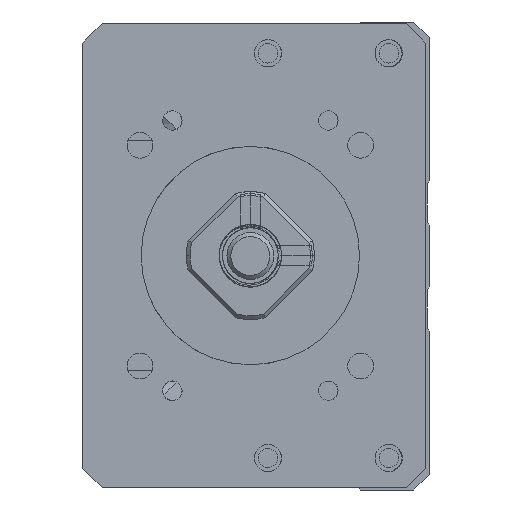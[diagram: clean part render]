
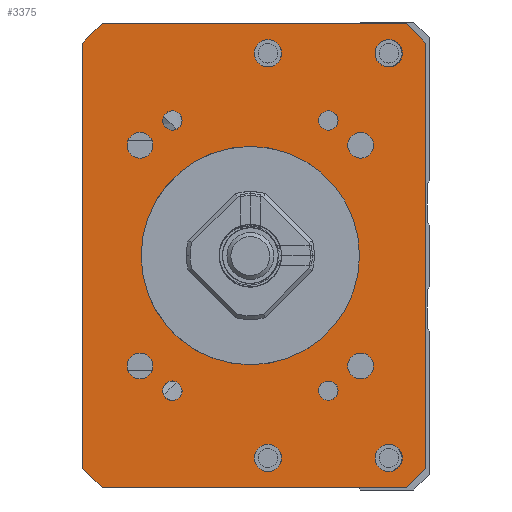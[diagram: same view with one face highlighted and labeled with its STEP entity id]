
A CAD part, left-side view. The second image highlights one B-rep face of the part: STEP entity #3375.
In plain terms, the highlighted planar face has unit normal (-1, 0, 0).
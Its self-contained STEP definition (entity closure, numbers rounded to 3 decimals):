
#226=CIRCLE('',#11425,14.);
#235=CIRCLE('',#11436,1.65);
#236=CIRCLE('',#11437,1.65);
#237=CIRCLE('',#11438,1.65);
#238=CIRCLE('',#11439,1.65);
#239=CIRCLE('',#11440,1.25);
#240=CIRCLE('',#11441,1.75);
#241=CIRCLE('',#11442,1.25);
#242=CIRCLE('',#11443,1.75);
#243=CIRCLE('',#11444,1.25);
#244=CIRCLE('',#11445,1.75);
#245=CIRCLE('',#11446,1.75);
#246=CIRCLE('',#11447,1.25);
#784=PLANE('',#11448);
#1678=LINE('',#15954,#2530);
#1680=LINE('',#15978,#2532);
#1681=LINE('',#15980,#2533);
#1682=LINE('',#15982,#2534);
#1683=LINE('',#15984,#2535);
#1684=LINE('',#15986,#2536);
#1685=LINE('',#15988,#2537);
#1686=LINE('',#15990,#2538);
#2530=VECTOR('',#12732,1.);
#2532=VECTOR('',#12756,1.);
#2533=VECTOR('',#12757,1.);
#2534=VECTOR('',#12758,1.);
#2535=VECTOR('',#12759,1.);
#2536=VECTOR('',#12760,1.);
#2537=VECTOR('',#12761,1.);
#2538=VECTOR('',#12762,1.);
#3375=ADVANCED_FACE('',(#4272,#4273,#4274,#4275,#4276,#4277,#4278,#4279,
#4280,#4281,#4282,#4283,#4284,#4285),#784,.F.);
#4272=FACE_BOUND('',#4817,.T.);
#4273=FACE_BOUND('',#4818,.T.);
#4274=FACE_BOUND('',#4819,.T.);
#4275=FACE_BOUND('',#4820,.T.);
#4276=FACE_BOUND('',#4821,.T.);
#4277=FACE_BOUND('',#4822,.T.);
#4278=FACE_BOUND('',#4823,.T.);
#4279=FACE_BOUND('',#4824,.T.);
#4280=FACE_BOUND('',#4825,.T.);
#4281=FACE_BOUND('',#4826,.T.);
#4282=FACE_BOUND('',#4827,.T.);
#4283=FACE_BOUND('',#4828,.T.);
#4284=FACE_BOUND('',#4829,.T.);
#4285=FACE_BOUND('',#4830,.T.);
#4817=EDGE_LOOP('',(#5934));
#4818=EDGE_LOOP('',(#5935));
#4819=EDGE_LOOP('',(#5936));
#4820=EDGE_LOOP('',(#5937));
#4821=EDGE_LOOP('',(#5938));
#4822=EDGE_LOOP('',(#5939));
#4823=EDGE_LOOP('',(#5940));
#4824=EDGE_LOOP('',(#5941));
#4825=EDGE_LOOP('',(#5942));
#4826=EDGE_LOOP('',(#5943,#5944,#5945,#5946,#5947,#5948,#5949,#5950));
#4827=EDGE_LOOP('',(#5951));
#4828=EDGE_LOOP('',(#5952));
#4829=EDGE_LOOP('',(#5953));
#4830=EDGE_LOOP('',(#5954));
#5934=ORIENTED_EDGE('',*,*,#9885,.F.);
#5935=ORIENTED_EDGE('',*,*,#9886,.F.);
#5936=ORIENTED_EDGE('',*,*,#9887,.F.);
#5937=ORIENTED_EDGE('',*,*,#9888,.F.);
#5938=ORIENTED_EDGE('',*,*,#9889,.F.);
#5939=ORIENTED_EDGE('',*,*,#9890,.T.);
#5940=ORIENTED_EDGE('',*,*,#9891,.F.);
#5941=ORIENTED_EDGE('',*,*,#9892,.F.);
#5942=ORIENTED_EDGE('',*,*,#9893,.F.);
#5943=ORIENTED_EDGE('',*,*,#9882,.T.);
#5944=ORIENTED_EDGE('',*,*,#9894,.T.);
#5945=ORIENTED_EDGE('',*,*,#9895,.F.);
#5946=ORIENTED_EDGE('',*,*,#9896,.T.);
#5947=ORIENTED_EDGE('',*,*,#9897,.F.);
#5948=ORIENTED_EDGE('',*,*,#9898,.T.);
#5949=ORIENTED_EDGE('',*,*,#9899,.T.);
#5950=ORIENTED_EDGE('',*,*,#9900,.T.);
#5951=ORIENTED_EDGE('',*,*,#9901,.F.);
#5952=ORIENTED_EDGE('',*,*,#9902,.F.);
#5953=ORIENTED_EDGE('',*,*,#9903,.F.);
#5954=ORIENTED_EDGE('',*,*,#9862,.F.);
#8774=VERTEX_POINT('',#15877);
#8794=VERTEX_POINT('',#15953);
#8795=VERTEX_POINT('',#15955);
#8797=VERTEX_POINT('',#15961);
#8798=VERTEX_POINT('',#15963);
#8799=VERTEX_POINT('',#15965);
#8800=VERTEX_POINT('',#15967);
#8801=VERTEX_POINT('',#15969);
#8802=VERTEX_POINT('',#15971);
#8803=VERTEX_POINT('',#15973);
#8804=VERTEX_POINT('',#15975);
#8805=VERTEX_POINT('',#15977);
#8806=VERTEX_POINT('',#15979);
#8807=VERTEX_POINT('',#15981);
#8808=VERTEX_POINT('',#15983);
#8809=VERTEX_POINT('',#15985);
#8810=VERTEX_POINT('',#15987);
#8811=VERTEX_POINT('',#15989);
#8812=VERTEX_POINT('',#15992);
#8813=VERTEX_POINT('',#15994);
#8814=VERTEX_POINT('',#15996);
#9862=EDGE_CURVE('',#8774,#8774,#226,.T.);
#9882=EDGE_CURVE('',#8795,#8794,#1678,.T.);
#9885=EDGE_CURVE('',#8797,#8797,#235,.T.);
#9886=EDGE_CURVE('',#8798,#8798,#236,.T.);
#9887=EDGE_CURVE('',#8799,#8799,#237,.T.);
#9888=EDGE_CURVE('',#8800,#8800,#238,.T.);
#9889=EDGE_CURVE('',#8801,#8801,#239,.T.);
#9890=EDGE_CURVE('',#8802,#8802,#240,.T.);
#9891=EDGE_CURVE('',#8803,#8803,#241,.T.);
#9892=EDGE_CURVE('',#8804,#8804,#242,.T.);
#9893=EDGE_CURVE('',#8805,#8805,#243,.T.);
#9894=EDGE_CURVE('',#8794,#8806,#1680,.T.);
#9895=EDGE_CURVE('',#8807,#8806,#1681,.T.);
#9896=EDGE_CURVE('',#8807,#8808,#1682,.T.);
#9897=EDGE_CURVE('',#8809,#8808,#1683,.T.);
#9898=EDGE_CURVE('',#8809,#8810,#1684,.T.);
#9899=EDGE_CURVE('',#8810,#8811,#1685,.T.);
#9900=EDGE_CURVE('',#8811,#8795,#1686,.T.);
#9901=EDGE_CURVE('',#8812,#8812,#244,.T.);
#9902=EDGE_CURVE('',#8813,#8813,#245,.T.);
#9903=EDGE_CURVE('',#8814,#8814,#246,.T.);
#11425=AXIS2_PLACEMENT_3D('',#15876,#12706,#12707);
#11436=AXIS2_PLACEMENT_3D('',#15960,#12738,#12739);
#11437=AXIS2_PLACEMENT_3D('',#15962,#12740,#12741);
#11438=AXIS2_PLACEMENT_3D('',#15964,#12742,#12743);
#11439=AXIS2_PLACEMENT_3D('',#15966,#12744,#12745);
#11440=AXIS2_PLACEMENT_3D('',#15968,#12746,#12747);
#11441=AXIS2_PLACEMENT_3D('',#15970,#12748,#12749);
#11442=AXIS2_PLACEMENT_3D('',#15972,#12750,#12751);
#11443=AXIS2_PLACEMENT_3D('',#15974,#12752,#12753);
#11444=AXIS2_PLACEMENT_3D('',#15976,#12754,#12755);
#11445=AXIS2_PLACEMENT_3D('',#15991,#12763,#12764);
#11446=AXIS2_PLACEMENT_3D('',#15993,#12765,#12766);
#11447=AXIS2_PLACEMENT_3D('',#15995,#12767,#12768);
#11448=AXIS2_PLACEMENT_3D('',#15997,#12769,#12770);
#12706=DIRECTION('',(-1.,0.,0.));
#12707=DIRECTION('',(0.,1.,0.));
#12732=DIRECTION('',(0.,0.,-1.));
#12738=DIRECTION('',(-1.,0.,0.));
#12739=DIRECTION('',(0.,0.,1.));
#12740=DIRECTION('',(-1.,0.,0.));
#12741=DIRECTION('',(0.,0.,1.));
#12742=DIRECTION('',(-1.,0.,0.));
#12743=DIRECTION('',(0.,0.,1.));
#12744=DIRECTION('',(-1.,0.,0.));
#12745=DIRECTION('',(0.,0.,1.));
#12746=DIRECTION('',(-1.,0.,0.));
#12747=DIRECTION('',(0.,1.,0.));
#12748=DIRECTION('',(1.,0.,0.));
#12749=DIRECTION('',(0.,0.,1.));
#12750=DIRECTION('',(-1.,0.,0.));
#12751=DIRECTION('',(0.,1.,0.));
#12752=DIRECTION('',(-1.,0.,0.));
#12753=DIRECTION('',(0.,0.,1.));
#12754=DIRECTION('',(-1.,0.,0.));
#12755=DIRECTION('',(0.,1.,0.));
#12756=DIRECTION('',(0.,-0.707,-0.707));
#12757=DIRECTION('',(0.,1.,0.));
#12758=DIRECTION('',(0.,-0.707,0.707));
#12759=DIRECTION('',(0.,0.,-1.));
#12760=DIRECTION('',(0.,0.707,0.707));
#12761=DIRECTION('',(0.,1.,0.));
#12762=DIRECTION('',(0.,0.707,-0.707));
#12763=DIRECTION('',(-1.,0.,0.));
#12764=DIRECTION('',(0.,0.,1.));
#12765=DIRECTION('',(-1.,0.,0.));
#12766=DIRECTION('',(0.,0.,1.));
#12767=DIRECTION('',(-1.,0.,0.));
#12768=DIRECTION('',(0.,1.,0.));
#12769=DIRECTION('',(1.,0.,0.));
#12770=DIRECTION('',(0.,1.,0.));
#15876=CARTESIAN_POINT('',(-211.,0.,0.));
#15877=CARTESIAN_POINT('',(-211.,14.,0.));
#15953=CARTESIAN_POINT('',(-211.,21.499,-27.25));
#15954=CARTESIAN_POINT('',(-211.,21.499,29.75));
#15955=CARTESIAN_POINT('',(-211.,21.499,27.25));
#15960=CARTESIAN_POINT('',(-211.,14.142,14.142));
#15961=CARTESIAN_POINT('',(-211.,14.142,15.792));
#15962=CARTESIAN_POINT('',(-211.,-14.142,14.142));
#15963=CARTESIAN_POINT('',(-211.,-14.142,15.792));
#15964=CARTESIAN_POINT('',(-211.,14.142,-14.142));
#15965=CARTESIAN_POINT('',(-211.,14.142,-12.492));
#15966=CARTESIAN_POINT('',(-211.,-14.142,-14.142));
#15967=CARTESIAN_POINT('',(-211.,-14.142,-12.492));
#15968=CARTESIAN_POINT('',(-211.,-10.,-17.321));
#15969=CARTESIAN_POINT('',(-211.,-8.75,-17.321));
#15970=CARTESIAN_POINT('',(-211.,-2.25,-25.936));
#15971=CARTESIAN_POINT('',(-211.,-2.25,-24.186));
#15972=CARTESIAN_POINT('',(-211.,10.,17.321));
#15973=CARTESIAN_POINT('',(-211.,11.25,17.321));
#15974=CARTESIAN_POINT('',(-211.,-2.25,25.936));
#15975=CARTESIAN_POINT('',(-211.,-2.25,27.686));
#15976=CARTESIAN_POINT('',(-211.,10.,-17.321));
#15977=CARTESIAN_POINT('',(-211.,11.25,-17.321));
#15978=CARTESIAN_POINT('',(-211.,18.999,-29.75));
#15979=CARTESIAN_POINT('',(-211.,18.999,-29.75));
#15980=CARTESIAN_POINT('',(-211.,-22.501,-29.75));
#15981=CARTESIAN_POINT('',(-211.,-20.001,-29.75));
#15982=CARTESIAN_POINT('',(-211.,-22.501,-27.25));
#15983=CARTESIAN_POINT('',(-211.,-22.501,-27.25));
#15984=CARTESIAN_POINT('',(-211.,-22.501,29.75));
#15985=CARTESIAN_POINT('',(-211.,-22.501,27.25));
#15986=CARTESIAN_POINT('',(-211.,-22.501,27.25));
#15987=CARTESIAN_POINT('',(-211.,-20.001,29.75));
#15988=CARTESIAN_POINT('',(-211.,-22.501,29.75));
#15989=CARTESIAN_POINT('',(-211.,18.999,29.75));
#15990=CARTESIAN_POINT('',(-211.,18.999,29.75));
#15991=CARTESIAN_POINT('',(-211.,-17.75,25.936));
#15992=CARTESIAN_POINT('',(-211.,-17.75,27.686));
#15993=CARTESIAN_POINT('',(-211.,-17.75,-25.936));
#15994=CARTESIAN_POINT('',(-211.,-17.75,-24.186));
#15995=CARTESIAN_POINT('',(-211.,-10.,17.321));
#15996=CARTESIAN_POINT('',(-211.,-8.75,17.321));
#15997=CARTESIAN_POINT('',(-211.,-22.501,29.75));
